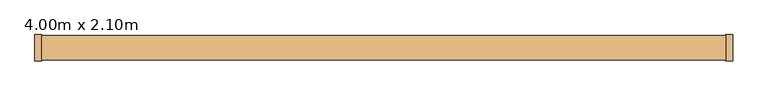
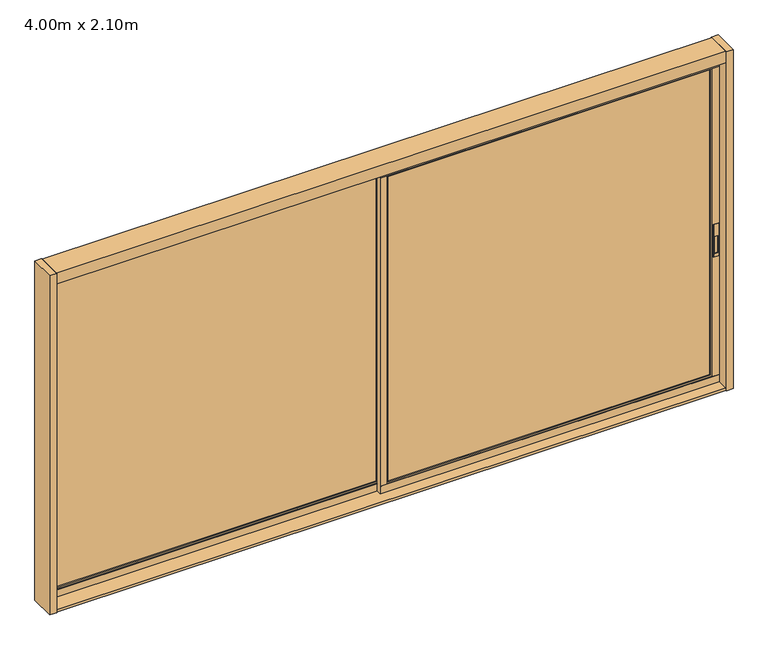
"""IFC4 building model written with IfcOpenShell, lengths in millimetres: door geometry, Porta de Correr - 2 Folhas - ComPainel 1 : 4.00m x 2.10m."""

from ifc_helpers import new_model, si_unit, frame, origin, origin_with_axes, place, context, project, spatial, polyline, outline, extrude, faceted_brep, source, transform, mapped, element, save


def door_4_00m_x_2_10m_2d2de526(model_context):
    return source(origin(), model_context, "Body", "SolidModel", [
        extrude(outline(polyline([(1000.0, 1984.2060771), (1000.0, 1954.2060771), (800.0, 1954.2060771), (800.0, 1984.2060771), (1000.0, 1984.2060771)]), holes=[polyline([(924.4849874, 1961.0294364), (924.4849874, 1978.1448294), (820.0, 1978.1448294), (820.0, 1961.0294364), (924.4849874, 1961.0294364)])]), frame((0.0, -7.3991119, 0.0), z_axis=(0.0, 1.0, 0.0), x_axis=(0.0, 0.0, 1.0)), (0.0, 0.0, 1.0), 2.3991119),
        extrude(outline(polyline([(1939.2060771, 7.672758), (54.2060771, 7.672758), (54.2060771, 12.9358747), (1939.2060771, 12.9358747), (1939.2060771, 7.672758)])), frame((0.0, 0.0, 70.0), z_axis=(0.0, 0.0, 1.0), x_axis=(1.0, 0.0, 0.0)), (0.0, 0.0, 1.0), 1890.0),
        faceted_brep([(4.2060771, -5.0, 2030.0), (4.2060771, 25.0, 2030.0), (4.2060771, 25.0, 1970.0), (4.2060771, 24.375, 1970.0), (4.2060771, 24.375, 60.0), (4.2060771, 25.0, 60.0), (4.2060771, 25.0, 0.0), (4.2060771, -5.0, 0.0), (4.2060771, -5.0, 60.0), (4.2060771, -4.375, 60.0), (4.2060771, -4.375, 1970.0), (4.2060771, -5.0, 1970.0), (1989.2060771, -5.0, 2030.0), (1989.2060771, -5.0, 1970.0), (1989.2060771, -3.75, 1970.0), (1989.2060771, -3.75, 60.0), (1989.2060771, -5.0, 60.0), (1989.2060771, -5.0, 0.0), (1989.2060771, 25.0, 0.0), (1989.2060771, 25.0, 60.0), (1989.2060771, 23.75, 60.0), (1989.2060771, 23.75, 1970.0), (1989.2060771, 25.0, 1970.0), (1989.2060771, 25.0, 2030.0), (1949.2060771, 23.75, 1970.0), (1949.2060771, 20.0, 1970.0), (44.2060771, 20.0, 1970.0), (44.2060771, 24.375, 1970.0), (1949.2060771, 20.0, 60.0), (44.2060771, 20.0, 60.0), (1939.2060771, 20.0, 1960.0), (54.2060771, 20.0, 1960.0), (54.2060771, 20.0, 70.0), (1939.2060771, 20.0, 70.0), (54.2060771, 0.0, 1960.0), (1939.2060771, 0.0, 1960.0), (1949.2060771, 0.0, 1970.0), (44.2060771, 0.0, 1970.0), (44.2060771, 0.0, 60.0), (1949.2060771, 0.0, 60.0), (1939.2060771, 0.0, 70.0), (54.2060771, 0.0, 70.0), (44.2060771, -4.375, 1970.0), (1949.2060771, -3.75, 1970.0), (44.2060771, 24.375, 60.0), (44.2060771, -4.375, 60.0), (1949.2060771, 23.75, 60.0), (1949.2060771, -3.75, 60.0)], [[[0, 1, 2, 3, 4, 5, 6, 7, 8, 9, 10, 11]], [[12, 13, 14, 15, 16, 17, 18, 19, 20, 21, 22, 23]], [[1, 0, 12, 23]], [[2, 1, 23, 22]], [[2, 22, 21, 24, 25, 26, 27, 3]], [[26, 25, 28, 29], [30, 31, 32, 33]], [[34, 31, 30, 35]], [[36, 37, 38, 39], [34, 35, 40, 41]], [[13, 11, 10, 42, 37, 36, 43, 14]], [[0, 11, 13, 12]], [[4, 3, 27, 44]], [[44, 27, 26, 29]], [[31, 34, 41, 32]], [[42, 45, 38, 37]], [[10, 9, 45, 42]], [[21, 20, 46, 24]], [[24, 46, 28, 25]], [[35, 30, 33, 40]], [[47, 43, 36, 39]], [[15, 14, 43, 47]], [[18, 17, 7, 6]], [[19, 18, 6, 5]], [[19, 5, 4, 44, 29, 28, 46, 20]], [[41, 40, 33, 32]], [[8, 16, 15, 47, 39, 38, 45, 9]], [[17, 16, 8, 7]]]),
        extrude(outline(polyline([(4.2060771, 37.672758), (-1880.7939229, 37.672758), (-1880.7939229, 42.9358747), (4.2060771, 42.9358747), (4.2060771, 37.672758)])), frame((0.0, 0.0, 70.0), z_axis=(0.0, 0.0, 1.0), x_axis=(1.0, 0.0, 0.0)), (0.0, 0.0, 1.0), 1890.0),
        faceted_brep([(-1930.7939229, 25.0, 2030.0), (-1930.7939229, 55.0, 2030.0), (-1930.7939229, 55.0, 1970.0), (-1930.7939229, 54.375, 1970.0), (-1930.7939229, 54.375, 60.0), (-1930.7939229, 55.0, 60.0), (-1930.7939229, 55.0, 0.0), (-1930.7939229, 25.0, 0.0), (-1930.7939229, 25.0, 60.0), (-1930.7939229, 25.625, 60.0), (-1930.7939229, 25.625, 1970.0), (-1930.7939229, 25.0, 1970.0), (54.2060771, 25.0, 2030.0), (54.2060771, 25.0, 1970.0), (54.2060771, 26.25, 1970.0), (54.2060771, 26.25, 60.0), (54.2060771, 25.0, 60.0), (54.2060771, 25.0, 0.0), (54.2060771, 55.0, 0.0), (54.2060771, 55.0, 60.0), (54.2060771, 53.75, 60.0), (54.2060771, 53.75, 1970.0), (54.2060771, 55.0, 1970.0), (54.2060771, 55.0, 2030.0), (14.2060771, 53.75, 1970.0), (14.2060771, 50.0, 1970.0), (-1890.7939229, 50.0, 1970.0), (-1890.7939229, 54.375, 1970.0), (14.2060771, 50.0, 60.0), (-1890.7939229, 50.0, 60.0), (4.2060771, 50.0, 1960.0), (-1880.7939229, 50.0, 1960.0), (-1880.7939229, 50.0, 70.0), (4.2060771, 50.0, 70.0), (-1880.7939229, 30.0, 1960.0), (4.2060771, 30.0, 1960.0), (14.2060771, 30.0, 1970.0), (-1890.7939229, 30.0, 1970.0), (-1890.7939229, 30.0, 60.0), (14.2060771, 30.0, 60.0), (4.2060771, 30.0, 70.0), (-1880.7939229, 30.0, 70.0), (-1890.7939229, 25.625, 1970.0), (14.2060771, 26.25, 1970.0), (-1890.7939229, 54.375, 60.0), (-1890.7939229, 25.625, 60.0), (14.2060771, 53.75, 60.0), (14.2060771, 26.25, 60.0)], [[[0, 1, 2, 3, 4, 5, 6, 7, 8, 9, 10, 11]], [[12, 13, 14, 15, 16, 17, 18, 19, 20, 21, 22, 23]], [[1, 0, 12, 23]], [[2, 1, 23, 22]], [[2, 22, 21, 24, 25, 26, 27, 3]], [[26, 25, 28, 29], [30, 31, 32, 33]], [[34, 31, 30, 35]], [[36, 37, 38, 39], [34, 35, 40, 41]], [[13, 11, 10, 42, 37, 36, 43, 14]], [[0, 11, 13, 12]], [[4, 3, 27, 44]], [[44, 27, 26, 29]], [[31, 34, 41, 32]], [[42, 45, 38, 37]], [[10, 9, 45, 42]], [[21, 20, 46, 24]], [[24, 46, 28, 25]], [[35, 30, 33, 40]], [[47, 43, 36, 39]], [[15, 14, 43, 47]], [[18, 17, 7, 6]], [[19, 18, 6, 5]], [[19, 5, 4, 44, 29, 28, 46, 20]], [[41, 40, 33, 32]], [[8, 16, 15, 47, 39, 38, 45, 9]], [[17, 16, 8, 7]]]),
        extrude(outline(polyline([(1989.2060771, -70.0), (-1930.7939229, -70.0), (-1930.7939229, 70.0), (1989.2060771, 70.0), (1989.2060771, -70.0)])), frame((0.0, 0.0, 2030.0), z_axis=(0.0, 0.0, 1.0), x_axis=(1.0, 0.0, 0.0)), (0.0, 0.0, 1.0), 70.0),
        extrude(outline(polyline([(1989.2060771, -70.0), (-1930.7939229, -70.0), (-1930.7939229, 70.0), (1989.2060771, 70.0), (1989.2060771, -70.0)])), origin_with_axes(), (0.0, 0.0, 1.0), 15.0),
        extrude(outline(polyline([(-1930.7939229, -75.0), (-1970.7939229, -75.0), (-1970.7939229, 75.0), (-1930.7939229, 75.0), (-1930.7939229, -75.0)])), origin_with_axes(), (0.0, 0.0, 1.0), 2100.0),
        extrude(outline(polyline([(2029.2060771, -75.0), (1989.2060771, -75.0), (1989.2060771, 75.0), (2029.2060771, 75.0), (2029.2060771, -75.0)])), origin_with_axes(), (0.0, 0.0, 1.0), 2100.0),
    ])


if __name__ == "__main__":
    model = new_model("IFC4")
    model_context = context("Model", 3, world=origin())
    ifc_project = project(units=[si_unit("LENGTHUNIT", "METRE", prefix="MILLI")], contexts=[model_context])
    site = spatial("IfcSite", under=ifc_project)
    building = spatial("IfcBuilding", under=site)
    placement = place(None, origin())
    door_4_00m_x_2_10m_shape = door_4_00m_x_2_10m_2d2de526(model_context)
    element("IfcDoor", 1, ObjectType="Porta de Correr - 2 Folhas - ComPainel 1 : 4.00m x 2.10m", at=placement, inside=building, context=model_context, shape_type="MappedRepresentation", body=[
        mapped(door_4_00m_x_2_10m_shape, transform((0.0, 0.0, 0.0), x_axis=(1.0, 0.0, 0.0), y_axis=(0.0, 1.0, 0.0), z_axis=(0.0, 0.0, 1.0))),
    ])
    save(model, "model.ifc")
